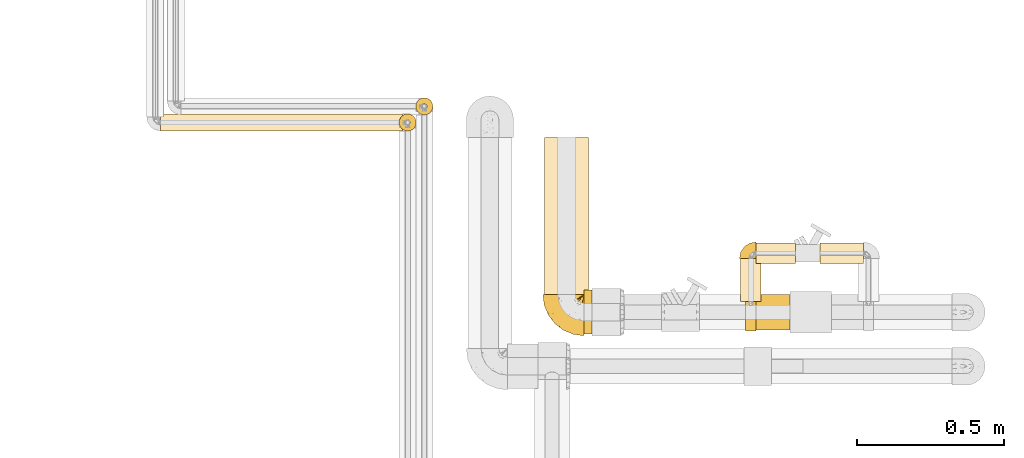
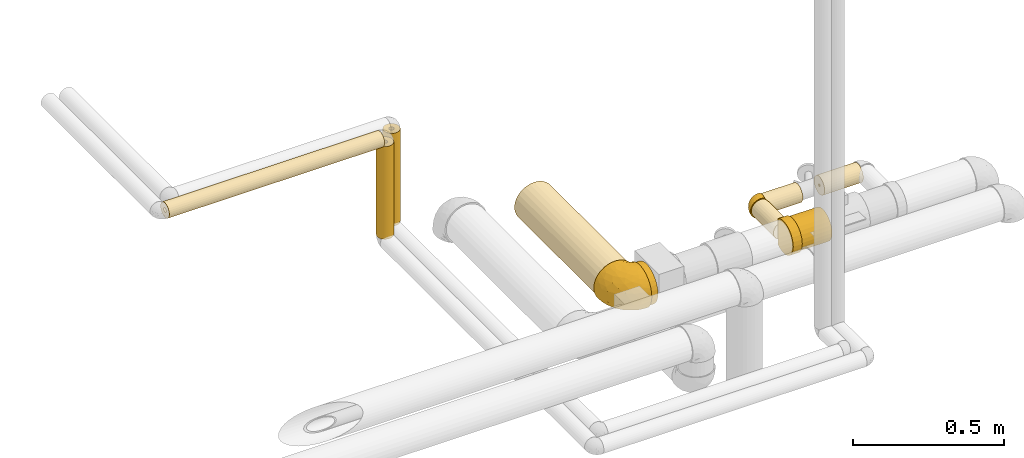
# One storey, part 8 of 83: 12 coverings.
"""IFC2X3 building model written with IfcOpenShell, lengths in millimetres."""

from ifc_helpers import new_model, entity, si_unit, converted_unit, derived_unit, direction, frame, origin_with_axes, origin_2d_with_axis, place, context, subcontext, project, spatial, hollow_circle, extrude, open_shell, surface_model, source, transform, mapped, element, save


model = new_model("IFC2X3")

# Units and contexts
model_context = context("Model", 3, precision=0.01, world=frame((0.0, 4.29681676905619e-09, 0.0)), true_north=direction((4.01073788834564e-13, 1.0)))
plan_context = context("Plan", 3, precision=0.01, world=frame((0.0, 4.29681676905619e-09, 0.0)), true_north=direction((4.01073788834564e-13, 1.0)))
body_context = subcontext(model_context, "Body", "Model", "MODEL_VIEW")
ifc_project = project(units=[converted_unit("PLANEANGLEUNIT", "DEGREE", entity("IfcPositiveLengthMeasure", 0.0174532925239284), si_unit("PLANEANGLEUNIT", "RADIAN"), dimensions=[0, 0, 0, 0, 0, 0, 0]), si_unit("AREAUNIT", "SQUARE_METRE"), si_unit("LENGTHUNIT", "METRE", prefix="MILLI"), si_unit("MASSUNIT", "GRAM", prefix="KILO"), si_unit("POWERUNIT", "WATT"), si_unit("PRESSUREUNIT", "PASCAL"), si_unit("FORCEUNIT", "NEWTON", prefix="KILO"), si_unit("ELECTRICVOLTAGEUNIT", "VOLT"), si_unit("ELECTRICCURRENTUNIT", "AMPERE"), si_unit("THERMODYNAMICTEMPERATUREUNIT", "DEGREE_CELSIUS"), si_unit("TIMEUNIT", "SECOND"), si_unit("VOLUMEUNIT", "CUBIC_METRE"), derived_unit("LINEARVELOCITYUNIT", [(si_unit("LENGTHUNIT", "METRE"), 1), (si_unit("TIMEUNIT", "SECOND"), -1)]), derived_unit("VOLUMETRICFLOWRATEUNIT", [(si_unit("VOLUMEUNIT", "CUBIC_METRE"), 1), (si_unit("TIMEUNIT", "SECOND"), -1)]), derived_unit("THERMALTRANSMITTANCEUNIT", [(si_unit("POWERUNIT", "WATT"), 1), (si_unit("THERMODYNAMICTEMPERATUREUNIT", "KELVIN"), -1), (si_unit("AREAUNIT", "SQUARE_METRE"), -1)]), derived_unit("SOUNDPRESSUREUNIT", [(si_unit("PRESSUREUNIT", "PASCAL"), 1)])], contexts=[model_context, plan_context])

# Site, building, storey
site_placement = place(None, frame((0.0, -4.29681676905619e-09, 0.0), z_axis=(0.0, 0.0, 1.0), x_axis=(1.0, 0.0, 0.0)))
site = spatial("IfcSite", under=ifc_project, at=site_placement, Name="ENGM", CompositionType="ELEMENT")
building_placement = place(site_placement, frame((0.0, 4.29681676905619e-09, 0.0), z_axis=(0.0, 0.0, 1.0), x_axis=(1.0, 0.0, 0.0)))
building = spatial("IfcBuilding", under=site, at=building_placement, Name="TI", CompositionType="ELEMENT")
storey_placement = place(building_placement, frame((0.0, 0.0, 204000.0), z_axis=(0.0, 0.0, 1.0), x_axis=(1.0, 0.0, 0.0)))
storey = spatial("IfcBuildingStorey", under=building, at=storey_placement, Name="Nivå D", CompositionType="ELEMENT", Elevation=204000.0)

# Coverings
shared_shape_1 = source(origin_with_axes(), body_context, "Body", "SurfaceModel", [
    surface_model("IfcShellBasedSurfaceModel", [(66.68615, 60.4, 44.5533), (44.55885, 60.4, 66.68245), (56.71233, 60.4, 56.70759), (74.09701, 60.4, 30.6867), (78.66008, 60.4, 15.64073), (-59.86937, 60.4, -53.36384), (-13.45191, 60.4, 79.06382), (0.0, 60.4, 80.2), (-26.52266, 60.4, 75.68744), (66.68245, 60.4, -44.55885), (80.2, 60.4, 0.0), (78.65881, 60.4, -15.6471), (74.09448, 60.4, -30.6928), (56.70759, 60.4, -56.71233), (44.5533, 60.4, -66.68615), (30.6867, 60.4, -74.09701), (-38.85297, 60.4, -70.16044), (-50.07051, 60.4, -62.6497), (-26.53389, 60.4, -75.6835), (0.0, 60.4, -80.2), (-13.46016, 60.4, -79.06241), (15.64073, 60.4, -78.66008), (-60.4, 47.38479, 64.70488), (-60.4, 59.86937, -53.36384), (-60.4, 47.38479, -64.70488), (-60.4, 16.77314, -78.42641), (-60.4, 16.77314, 78.42641), (-60.4, 32.80442, -73.18408), (-60.4, -20.75729, 77.46726), (-60.4, 0.0, 80.2), (-60.4, 59.86937, 53.36384), (-60.4, 32.80442, 73.18408), (-60.4, 0.0, -80.2), (-60.4, -20.75729, -77.46726), (-60.4, -40.1, -69.45524), (-60.4, -77.46726, -20.75729), (-60.4, -56.70997, -56.70997), (-60.4, -69.45524, -40.1), (-60.4, -40.1, 69.45524), (-60.4, -77.46726, 20.75729), (-60.4, -56.70997, 56.70997), (-60.4, -69.45524, 40.1), (-60.4, -80.2, 0.0), (-60.02478, 60.02478, 53.36384), (-60.02478, 60.02478, -53.36384), (-59.86937, 60.4, 53.36384), (-35.13493, 49.31431, -73.18165), (-30.44414, 36.38988, -77.12086), (-47.24837, 50.14287, -67.23448), (-51.76844, 1.71692, -80.2), (-49.59906, 26.61132, -76.22785), (-37.28592, 4.59768, -80.2), (-52.73185, 51.8369, -63.56342), (-42.45319, 40.2421, -72.90935), (-51.54432, 46.0645, -67.34579), (-56.12324, 44.39109, -67.16398), (-60.25988, 59.9274, -53.36384), (-36.88164, 25.89057, -78.00411), (-21.1535, 51.10695, -77.64859), (-45.04463, 56.76413, -66.64151), (-49.15929, 54.99138, -64.30522), (-59.9274, 60.25988, -53.36384), (-59.97609, 60.14233, -53.36384), (-20.84125, 41.65154, -78.45831), (-4.59768, 37.28592, -80.2), (-11.14421, 27.48834, -80.2), (-60.14233, 59.97609, -53.36384), (-2.29884, 48.84296, -80.2), (-17.69075, 17.69075, -80.2), (-27.48834, 11.14421, -80.2), (-48.22281, 2.42219, -80.2), (-38.04775, -11.91191, -78.72944), (75.40917, 24.01004, 0.0), (72.25534, 25.59122, -23.28207), (10.61001, 22.76207, -77.67441), (21.22289, 41.97871, -76.74814), (31.34576, 25.38063, -70.73221), (-3.74675, -31.18103, -64.77575), (-5.13665, -50.63443, -48.82266), (-32.87645, -45.29789, -63.62694), (-27.38508, -24.49772, -74.09514), (-4.74736, -5.39378, -75.94549), (46.21326, 31.25344, -62.60562), (36.40138, 43.87324, -70.73221), (-44.8504, -25.95034, -75.39633), (39.01921, -39.01921, 0.0), (49.22532, -23.71846, -19.55404), (61.36317, -9.9, 0.0), (-21.92667, -8.25016, -78.08521), (-22.38404, -68.61058, -30.69121), (-34.25952, -60.8409, -48.82266), (-34.15394, -76.26325, -15.12592), (22.35578, -47.44944, -26.93623), (25.62001, -10.18883, -61.99781), (44.02353, 6.8413, -56.46123), (37.09986, -19.13964, -46.3807), (18.79123, 5.85638, -71.78749), (57.98575, 29.33557, -50.88062), (9.9, -61.36317, 0.0), (66.5747, 27.65458, -37.80789), (57.74343, 3.50566, -37.8079), (18.9328, -40.15021, -43.03133), (9.31059, -35.56603, -55.16599), (-7.14053, -68.17975, -15.05794), (0.87984, -60.45932, -28.12389), (62.71669, -0.27663, -22.91513), (-24.01004, -75.40917, 0.0), (4.02735, 8.3767, -77.00574), (9.44148, -11.27075, -69.70024), (47.17014, -18.05894, -33.77057), (58.25151, 27.96235, 50.12561), (62.11094, 13.63756, 37.80204), (68.86186, 38.33131, 37.80204), (-21.55327, -72.8771, 16.7886), (-8.93094, -63.85731, 30.69121), (-37.04517, -72.05186, 30.69121), (48.04336, -22.81151, 24.73654), (28.08242, 17.78952, 70.72908), (20.54188, 39.16084, 76.74624), (8.43896, 21.5252, 77.99965), (43.58186, 7.06783, 56.95761), (22.34051, -7.09908, 65.42836), (34.21801, -17.24442, 50.87545), (-28.29947, -59.40083, 48.82266), (5.41219, -45.68707, 47.74068), (-11.73307, -37.38098, 63.62694), (2.27362, -63.23248, 17.75104), (23.80702, -49.34072, 18.96603), (49.08404, -10.51145, 39.06557), (-38.19227, -11.44439, 78.82289), (-34.65245, -26.97661, 74.09514), (-48.22281, 2.42219, 80.2), (27.59731, -37.89169, 36.27535), (-37.37974, -46.36918, 63.62694), (63.90334, 2.03316, 22.68626), (73.38333, 30.20673, 23.2758), (47.23671, 32.15612, 61.99357), (30.6928, 60.4, 74.09448), (15.6471, 60.4, 78.65881), (34.6965, 35.87563, 70.72909), (-12.06912, -23.90977, 71.26885), (-7.75233, -9.0194, 75.6161), (-23.22723, -15.01108, 76.62586), (-37.28592, 4.59768, 80.2), (-27.48834, 11.14421, 80.2), (-2.29884, 48.84296, 80.2), (-4.59768, 37.28592, 80.2), (13.04574, 5.0174, 73.71794), (6.541, -23.53082, 65.01615), (-2.98218, 9.37603, 78.50255), (-11.14421, 27.48834, 80.2), (-17.69075, 17.69075, 80.2), (-51.76844, 1.71692, 80.2), (-52.73034, 51.83578, 63.56483), (-47.24048, 50.13672, 67.24098), (-45.0362, 56.76319, 66.64715), (-49.15393, 54.98866, 64.3097), (-35.12322, 49.31397, 73.18652), (-60.25988, 59.9274, 53.36384), (-56.12324, 44.39109, 67.16398), (-51.54437, 46.06455, 67.34575), (-60.14233, 59.97609, 53.36384), (-49.59906, 26.61132, 76.22785), (-36.88467, 25.90213, 78.00143), (-59.97609, 60.14233, 53.36384), (-30.4326, 36.38986, 77.12344), (-21.14326, 51.1076, 77.65114), (-38.84256, 60.4, 70.1662), (-59.9274, 60.25988, 53.36384), (-50.06396, 60.4, 62.65492), (-20.83441, 41.65564, 78.45925), (-42.44607, 40.23511, 72.91391)], [open_shell([[[0, 1, 2]], [[0, 3, 4]], [[1, 0, 5]], [[6, 7, 8]], [[8, 7, 5]], [[9, 10, 11]], [[9, 11, 12]], [[9, 13, 14]], [[9, 14, 5]], [[10, 9, 5]], [[15, 5, 14]], [[5, 16, 17]], [[16, 5, 18]], [[19, 20, 5]], [[18, 5, 20]], [[15, 19, 5]], [[15, 21, 19]], [[10, 5, 0]], [[22, 23, 24]], [[24, 25, 26]], [[25, 24, 27]], [[25, 28, 29]], [[30, 23, 22]], [[22, 26, 31]], [[24, 26, 22]], [[25, 29, 26]], [[25, 32, 28]], [[33, 34, 35]], [[36, 37, 35]], [[36, 35, 34]], [[33, 35, 38]], [[38, 39, 40]], [[38, 28, 33]], [[40, 39, 41]], [[38, 35, 39]], [[42, 39, 35]], [[33, 28, 32]], [[23, 30, 43]], [[44, 23, 43]], [[45, 5, 43]], [[44, 43, 5]], [[46, 47, 48]], [[49, 32, 25]], [[49, 50, 51]], [[44, 48, 52]], [[50, 49, 25]], [[52, 53, 54]], [[25, 27, 50]], [[55, 24, 56]], [[54, 53, 57]], [[20, 58, 18]], [[24, 23, 56]], [[59, 60, 61]], [[59, 17, 16]], [[53, 48, 47]], [[5, 17, 61]], [[62, 60, 48]], [[61, 17, 59]], [[16, 18, 59]], [[46, 60, 59]], [[50, 57, 51]], [[63, 58, 64]], [[55, 27, 24]], [[46, 59, 58]], [[47, 63, 65]], [[52, 54, 66]], [[58, 59, 18]], [[20, 67, 58]], [[62, 48, 44]], [[54, 50, 55]], [[63, 46, 58]], [[47, 68, 57]], [[57, 68, 69]], [[54, 57, 50]], [[48, 60, 46]], [[61, 60, 62]], [[65, 68, 47]], [[47, 46, 63]], [[63, 64, 65]], [[27, 55, 50]], [[67, 20, 19]], [[67, 64, 58]], [[54, 56, 66]], [[48, 53, 52]], [[57, 53, 47]], [[56, 54, 55]], [[44, 52, 66]], [[51, 57, 69]], [[70, 71, 33]], [[70, 51, 71]], [[11, 72, 73]], [[74, 75, 76]], [[77, 78, 79]], [[77, 80, 81]], [[82, 76, 83]], [[71, 84, 33]], [[85, 86, 87]], [[15, 75, 21]], [[88, 81, 80]], [[12, 11, 73]], [[89, 37, 90]], [[35, 91, 42]], [[86, 85, 92]], [[37, 89, 35]], [[37, 36, 90]], [[34, 79, 36]], [[84, 79, 34]], [[93, 94, 95]], [[19, 21, 67]], [[76, 94, 96]], [[13, 9, 97]], [[82, 13, 97]], [[85, 98, 92]], [[99, 73, 100]], [[83, 75, 15]], [[21, 75, 67]], [[101, 78, 102]], [[103, 91, 89]], [[92, 98, 103]], [[104, 78, 101]], [[87, 86, 105]], [[103, 98, 106]], [[82, 94, 76]], [[105, 72, 87]], [[12, 99, 9]], [[107, 108, 81]], [[11, 10, 72]], [[97, 99, 100]], [[93, 96, 94]], [[74, 64, 75]], [[77, 79, 80]], [[14, 83, 15]], [[90, 79, 78]], [[107, 65, 74]], [[92, 101, 109]], [[73, 105, 100]], [[80, 71, 88]], [[102, 95, 101]], [[74, 96, 107]], [[96, 74, 76]], [[14, 13, 82]], [[75, 83, 76]], [[82, 83, 14]], [[82, 97, 94]], [[97, 100, 94]], [[95, 94, 100]], [[109, 95, 100]], [[95, 109, 101]], [[79, 90, 36]], [[89, 90, 78]], [[33, 32, 70]], [[69, 88, 51]], [[71, 80, 84]], [[81, 69, 68]], [[51, 88, 71]], [[69, 81, 88]], [[79, 84, 80]], [[34, 33, 84]], [[108, 96, 93]], [[96, 108, 107]], [[91, 103, 106]], [[104, 103, 89]], [[42, 91, 106]], [[89, 91, 35]], [[102, 108, 93]], [[77, 81, 108]], [[81, 68, 107]], [[105, 73, 72]], [[78, 104, 89]], [[92, 103, 104]], [[9, 99, 97]], [[12, 73, 99]], [[75, 64, 67]], [[65, 107, 68]], [[65, 64, 74]], [[109, 105, 86]], [[105, 109, 100]], [[92, 109, 86]], [[104, 101, 92]], [[102, 78, 77]], [[108, 102, 77]], [[95, 102, 93]], [[110, 111, 112]], [[42, 106, 113]], [[113, 114, 115]], [[87, 116, 85]], [[117, 118, 119]], [[120, 121, 122]], [[123, 124, 125]], [[126, 127, 114]], [[122, 128, 120]], [[98, 85, 127]], [[129, 28, 130]], [[28, 129, 131]], [[132, 127, 116]], [[133, 130, 38]], [[38, 40, 133]], [[115, 41, 39]], [[120, 128, 111]], [[41, 115, 123]], [[38, 130, 28]], [[85, 116, 127]], [[111, 134, 135]], [[133, 123, 125]], [[110, 2, 136]], [[128, 116, 134]], [[4, 3, 135]], [[2, 1, 136]], [[118, 137, 138]], [[135, 3, 112]], [[10, 4, 72]], [[137, 139, 1]], [[140, 141, 142]], [[41, 123, 40]], [[129, 142, 143]], [[118, 117, 139]], [[141, 144, 142]], [[120, 111, 110]], [[138, 145, 118]], [[134, 72, 135]], [[119, 118, 146]], [[139, 117, 136]], [[72, 4, 135]], [[128, 134, 111]], [[121, 117, 147]], [[0, 112, 3]], [[124, 123, 114]], [[122, 148, 124]], [[132, 122, 124]], [[126, 114, 113]], [[132, 114, 127]], [[148, 122, 121]], [[0, 2, 110]], [[135, 112, 111]], [[110, 112, 0]], [[110, 136, 120]], [[136, 117, 120]], [[121, 120, 117]], [[147, 117, 119]], [[141, 140, 148]], [[149, 150, 151]], [[119, 149, 147]], [[123, 133, 40]], [[130, 133, 125]], [[131, 129, 143]], [[131, 29, 28]], [[142, 129, 130]], [[140, 130, 125]], [[144, 149, 151]], [[130, 140, 142]], [[148, 140, 125]], [[124, 148, 125]], [[148, 121, 147]], [[116, 87, 134]], [[72, 134, 87]], [[132, 116, 128]], [[114, 132, 124]], [[39, 42, 113]], [[123, 115, 114]], [[39, 113, 115]], [[126, 106, 98]], [[106, 126, 113]], [[98, 127, 126]], [[150, 149, 119]], [[148, 147, 141]], [[141, 147, 149]], [[1, 139, 136]], [[137, 118, 139]], [[145, 138, 7]], [[145, 146, 118]], [[132, 128, 122]], [[119, 146, 150]], [[141, 149, 144]], [[144, 143, 142]], [[26, 29, 152]], [[153, 154, 43]], [[155, 156, 157]], [[22, 158, 30]], [[159, 160, 158]], [[43, 161, 153]], [[160, 162, 163]], [[154, 164, 43]], [[165, 157, 154]], [[26, 162, 31]], [[163, 143, 144]], [[26, 152, 162]], [[166, 145, 6]], [[159, 31, 162]], [[166, 8, 167]], [[7, 6, 145]], [[168, 164, 156]], [[166, 167, 155]], [[6, 8, 166]], [[157, 166, 155]], [[169, 155, 167]], [[170, 166, 157]], [[143, 162, 152]], [[154, 157, 156]], [[170, 146, 166]], [[169, 45, 168]], [[169, 168, 155]], [[22, 159, 158]], [[165, 163, 151]], [[154, 153, 171]], [[165, 150, 170]], [[163, 165, 171]], [[143, 163, 162]], [[168, 156, 155]], [[154, 156, 164]], [[157, 165, 170]], [[31, 159, 22]], [[150, 165, 151]], [[150, 146, 170]], [[160, 159, 162]], [[166, 146, 145]], [[161, 158, 160]], [[171, 153, 160]], [[163, 171, 160]], [[154, 171, 165]], [[153, 161, 160]], [[144, 151, 163]], [[1, 138, 137]], [[1, 5, 7]], [[7, 138, 1]], [[167, 8, 169]], [[5, 169, 8]], [[169, 5, 45]], [[10, 0, 4]]])]),
])
covering_1_placement = place(storey_placement, frame((608617.36825, 698092.0, 5915.24411), z_axis=(0.0, 0.0, 1.0), x_axis=(0.0, -1.0, 0.0)))
element("IfcCovering", 1, at=covering_1_placement, inside=storey, Name="BI11T - Rørskål m/Al.folie - varme 60-25", PredefinedType="INSULATION", context=body_context, shape_type="MappedRepresentation", body=[
    mapped(shared_shape_1, transform((0.0, 0.0, 0.0), scale=1.0)),
])
shared_shape_2 = source(origin_with_axes(), body_context, "Body", "SweptSolid", [
    extrude(hollow_circle(Radius=75.0, WallThickness=50.0, at=origin_2d_with_axis()), frame((0.0, 0.0, 0.0), z_axis=(1.0, 0.0, 0.0), x_axis=(0.0, 1.0, 0.0)), (0.0, 0.0, 1.0), 26.6),
])
covering_2_placement = place(storey_placement, frame((608704.37351, 698092.0, 5915.24411), z_axis=(0.0, 0.0, 1.0), x_axis=(-1.0, 0.0, 0.0)))
element("IfcCovering", 2, at=covering_2_placement, inside=storey, Name="BI11T - Rørskål m/Al.folie - varme 60-25", PredefinedType="INSULATION", context=body_context, shape_type="MappedRepresentation", body=[
    mapped(shared_shape_2, transform((0.0, 0.0, 0.0), scale=1.0)),
])
shared_shape_3 = source(origin_with_axes(), body_context, "Body", "SweptSolid", [
    extrude(hollow_circle(Radius=75.0, WallThickness=50.0, at=origin_2d_with_axis()), frame((0.0, 0.0, 0.0), z_axis=(1.0, 0.0, 0.0), x_axis=(0.0, 1.0, 0.0)), (0.0, 0.0, 1.0), 533.4),
])
covering_3_placement = place(storey_placement, frame((608617.36825, 698685.81699, 5915.24411), z_axis=(0.0, 0.0, 1.0), x_axis=(0.0, -1.0, 0.0)))
element("IfcCovering", 3, at=covering_3_placement, inside=storey, Name="BI11T - Rørskål m/Al.folie - varme 60-25", PredefinedType="INSULATION", context=body_context, shape_type="MappedRepresentation", body=[
    mapped(shared_shape_3, transform((0.0, 0.0, 0.0), scale=1.0)),
])
shared_shape_4 = source(origin_with_axes(), body_context, "Body", "SurfaceModel", [
    surface_model("IfcShellBasedSurfaceModel", [(17.2, -36.3, -52.95234), (17.2, -36.3, -45.45459), (-17.2, -36.3, -45.45459), (-17.2, -36.3, -52.95234), (-17.2, -36.3, 45.45459), (17.2, -36.3, 45.45459), (17.2, -36.3, 52.95234), (-17.2, -36.3, 52.95234), (17.2, 16.61618, -62.01244), (17.2, 32.1, -55.59883), (17.2, 45.39626, -45.39626), (17.2, 55.59883, -32.1), (17.2, 62.01244, -16.61618), (17.2, -12.7978, -62.91149), (17.2, 0.0, -64.2), (17.2, -25.04423, -59.11367), (17.2, 64.2, 0.0), (17.2, 62.01244, 16.61618), (17.2, 55.59883, 32.1), (17.2, 45.39626, 45.39626), (17.2, 32.1, 55.59883), (17.2, -25.04423, 59.11367), (17.2, -12.7978, 62.91149), (17.2, 0.0, 64.2), (17.2, 16.61618, 62.01244), (-17.2, 64.2, 0.0), (-17.2, 62.01244, 16.61618), (-17.2, 55.59883, 32.1), (-17.2, 45.39626, 45.39626), (-17.2, 16.61618, 62.01244), (-17.2, 0.0, 64.2), (-17.2, 32.1, 55.59883), (-17.2, -12.7978, 62.91149), (-17.2, -25.04423, 59.11367), (-17.2, -25.04423, -59.11367), (-17.2, -12.7978, -62.91149), (-17.2, 0.0, -64.2), (-17.2, 16.61618, -62.01244), (-17.2, 32.1, -55.59883), (-17.2, 45.39626, -45.39626), (-17.2, 55.59883, -32.1), (-17.2, 62.01244, -16.61618)], [open_shell([[[0, 1, 2]], [[2, 3, 0]], [[1, 4, 2]], [[5, 6, 4]], [[7, 4, 6]], [[5, 4, 1]], [[1, 8, 9]], [[1, 10, 11]], [[9, 10, 1]], [[1, 11, 12]], [[13, 14, 1]], [[15, 1, 0]], [[1, 15, 13]], [[14, 8, 1]], [[12, 16, 1]], [[5, 16, 17]], [[5, 18, 19]], [[17, 18, 5]], [[19, 20, 5]], [[5, 21, 6]], [[21, 5, 22]], [[23, 22, 5]], [[23, 5, 24]], [[5, 20, 24]], [[16, 5, 1]], [[17, 25, 26]], [[18, 26, 27]], [[16, 25, 17]], [[18, 17, 26]], [[19, 18, 27]], [[27, 28, 19]], [[29, 30, 24]], [[20, 31, 24]], [[31, 20, 28]], [[24, 31, 29]], [[30, 23, 24]], [[28, 20, 19]], [[30, 32, 22]], [[22, 23, 30]], [[32, 21, 22]], [[33, 7, 6]], [[6, 21, 33]], [[33, 21, 32]], [[3, 34, 15]], [[15, 0, 3]], [[34, 13, 15]], [[35, 36, 14]], [[14, 13, 35]], [[35, 13, 34]], [[8, 36, 37]], [[9, 37, 38]], [[14, 36, 8]], [[9, 8, 37]], [[10, 9, 38]], [[38, 39, 10]], [[11, 39, 40]], [[12, 40, 41]], [[11, 40, 12]], [[16, 12, 41]], [[25, 16, 41]], [[39, 11, 10]], [[4, 29, 31]], [[4, 28, 27]], [[31, 28, 4]], [[4, 27, 26]], [[32, 30, 4]], [[33, 4, 7]], [[4, 33, 32]], [[30, 29, 4]], [[26, 25, 4]], [[2, 25, 41]], [[2, 40, 39]], [[41, 40, 2]], [[39, 38, 2]], [[2, 34, 3]], [[34, 2, 35]], [[36, 35, 2]], [[36, 2, 37]], [[2, 38, 37]], [[25, 2, 4]]])]),
])
covering_4_placement = place(storey_placement, frame((609244.07456, 698092.0, 5915.24411), z_axis=(0.0, 0.0, -1.0), x_axis=(1.0, 0.0, 0.0)))
element("IfcCovering", 4, at=covering_4_placement, inside=storey, Name="BI11T - Rørskål m/Al.folie - varme 60-25", PredefinedType="INSULATION", context=body_context, shape_type="MappedRepresentation", body=[
    mapped(shared_shape_4, transform((0.0, 0.0, 0.0), scale=1.0)),
])
shared_shape_5 = source(origin_with_axes(), body_context, "Body", "SweptSolid", [
    extrude(hollow_circle(Radius=35.0, WallThickness=30.0, at=origin_2d_with_axis()), frame((0.0, 0.0, 0.0), z_axis=(1.0, 0.0, 0.0), x_axis=(0.0, 1.0, 0.0)), (0.0, 0.0, 1.0), 146.5),
])
covering_5_placement = place(storey_placement, frame((609244.07456, 698128.3, 5915.20000000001), z_axis=(0.0, 0.0, 1.0), x_axis=(0.0, 1.0, 0.0)))
element("IfcCovering", 5, at=covering_5_placement, inside=storey, Name="BI11T - Rørskål m/Al.folie - varme 60-25", PredefinedType="INSULATION", context=body_context, shape_type="MappedRepresentation", body=[
    mapped(shared_shape_5, transform((0.0, 0.0, 0.0), scale=1.0, scale2=1.0, scale3=1.0, uniform=False)),
])
shared_shape_6 = source(origin_with_axes(), body_context, "Body", "SweptSolid", [
    extrude(hollow_circle(Radius=35.0, WallThickness=30.0, at=origin_2d_with_axis()), frame((0.0, 0.0, 0.0), z_axis=(1.0, 0.0, 0.0), x_axis=(0.0, 1.0, 0.0)), (0.0, 0.0, 1.0), 134.6),
])
covering_6_placement = place(storey_placement, frame((609395.82456, 698292.0, 5915.20000000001), z_axis=(0.0, 0.0, 1.0), x_axis=(-1.0, 0.0, 0.0)))
element("IfcCovering", 6, at=covering_6_placement, inside=storey, Name="BI11T - Rørskål m/Al.folie - varme 60-25", PredefinedType="INSULATION", context=body_context, shape_type="MappedRepresentation", body=[
    mapped(shared_shape_6, transform((0.0, 0.0, 0.0), scale=1.0)),
])
shared_shape_7 = source(origin_with_axes(), body_context, "Body", "SurfaceModel", [
    surface_model("IfcShellBasedSurfaceModel", [(16.754, 17.2, 34.77446), (24.07259, 17.2, 30.174), (30.18318, 17.2, 24.06109), (34.78009, 17.2, 16.74233), (37.63334, 17.2, 8.5844), (-16.85358, 17.2, 34.72631), (0.0, 17.2, 38.6), (8.5936, 17.2, 37.63124), (-8.6403, 17.2, 37.62054), (37.63124, 17.2, -8.5936), (-16.85358, 17.2, -34.72631), (34.77446, 17.2, -16.754), (30.174, 17.2, -24.07259), (24.06109, 17.2, -30.18318), (16.74233, 17.2, -34.78009), (8.5844, 17.2, -37.63334), (0.0, 17.2, -38.6), (-8.65272, 17.2, -37.61769), (38.6, 17.2, 0.0), (-17.2, 16.85358, -34.72631), (-17.2, 8.64651, -37.61912), (-17.2, 0.0, -38.6), (-17.2, -9.99041, -37.28474), (-17.2, 16.85358, 34.72631), (-17.2, 8.64651, 37.61912), (-17.2, 0.0, 38.6), (-17.2, -19.3, 33.42858), (-17.2, -9.99041, 37.28474), (-17.2, -19.3, -33.42858), (-17.2, -27.29432, -27.29432), (-17.2, -33.42858, -19.3), (-17.2, -37.28474, -9.99041), (-17.2, -27.29432, 27.29432), (-17.2, -33.42858, 19.3), (-17.2, -37.28474, 9.99041), (-17.2, -38.6, 0.0), (-16.95505, 16.95505, 34.72631), (-16.95505, 16.95505, -34.72631), (-10.093, 7.99163, -38.1963), (-12.83075, 12.82906, -36.99358), (-17.2, 13.26686, -35.99055), (-3.77872, 17.2, -38.17102), (-5.03776, 5.03776, -38.6), (34.73552, 3.81722, -12.75404), (36.08141, 4.5382, 0.0), (-10.15633, -13.98603, -35.66175), (-6.6121, -22.09681, -30.62344), (1.28371, -26.90707, -23.49819), (-8.78753, -29.87772, -23.49819), (-9.56329, -6.41448, -37.84068), (5.71724, -30.15925, -15.35902), (9.16812, -30.83912, -8.72948), (-0.24706, -35.22244, -7.34103), (-3.44766, -33.84153, -14.77158), (11.79647, 9.72898, -36.43575), (18.34549, -18.15558, -20.13103), (22.06593, -9.74812, -23.75626), (25.8635, -11.28695, -17.44492), (-1.49358, 13.59417, -38.6), (28.37333, -12.42598, -10.45733), (-13.59417, 1.49358, -38.6), (24.10133, -1.97352, -26.2125), (28.48803, -2.81482, -20.54249), (19.84317, 10.0296, -32.68712), (25.88206, 6.09965, -27.29953), (17.36006, 2.06021, -32.68712), (6.87024, 2.35963, -36.97635), (7.24113, -8.00945, -34.19215), (-0.50614, -3.14153, -37.50843), (4.05164, -18.37681, -30.03902), (14.51559, -13.9994, -27.29953), (31.77079, 7.72102, -20.54249), (34.35248, -4.15374, 0.0), (21.93929, -19.89657, -11.88037), (-8.07832, 3.77832, -38.6), (-5.15248, -4.77878, -37.79042), (-11.11888, 2.51888, -38.6), (-2.98717, 9.98834, -38.6), (22.25656, -22.25656, 0.0), (28.30452, -13.20515, 0.0), (14.33857, -25.65925, -13.89396), (17.82595, -25.47925, -6.71326), (10.01917, -21.63528, -24.00943), (-4.5382, -36.08141, 0.0), (12.0867, -2.89595, -33.9764), (17.76728, -5.8335, -29.68601), (-2.43717, -11.15914, -35.66175), (4.15374, -34.35248, 0.0), (13.20515, -28.30452, 0.0), (1.28094, -26.90823, 23.49819), (4.05381, -18.37465, 30.03962), (-6.61293, -22.09703, 30.62344), (-0.24706, -35.22242, 7.34113), (-8.78917, -29.87801, 23.49819), (-3.44875, -33.84182, 14.77158), (34.73945, 3.81766, 12.74347), (5.72019, -30.154, 15.36694), (-10.15633, -13.98603, 35.66175), (28.38486, -12.4115, 10.45101), (28.49485, -2.81763, 20.53077), (6.87222, 2.34883, 36.97415), (11.80651, 9.72559, 36.43205), (-2.98717, 9.98834, 38.6), (14.34627, -25.6546, 13.89184), (17.82619, -25.47954, 6.71117), (21.9496, -19.88818, 11.87507), (17.76807, -5.84067, 29.68218), (12.10402, -2.89534, 33.96888), (7.25198, -7.9893, 34.19577), (-0.50603, -3.14166, 37.50839), (-5.64892, -3.70957, 38.01619), (-2.43717, -11.15914, 35.66175), (22.0726, -9.74492, 23.75154), (14.52301, -14.0067, 27.28912), (18.35733, -18.15128, 20.12225), (31.77798, 7.7194, 20.53077), (25.89214, 6.09706, 27.28912), (19.8547, 10.02754, 32.67975), (17.37074, 2.05539, 32.67975), (24.11537, -1.97253, 26.19919), (-9.56329, -6.41448, 37.84068), (-13.59417, 1.49358, 38.6), (10.02667, -21.64445, 23.99455), (-1.49358, 13.59417, 38.6), (9.16839, -30.83837, 8.73175), (-5.03776, 5.03776, 38.6), (-8.07832, 3.77832, 38.6), (-11.11888, 2.51888, 38.6), (25.29953, -12.16739, 17.39357), (-13.82008, 12.82072, 36.79423), (-9.45042, 9.44743, 38.09256), (-17.2, 3.77877, 38.17133), (-13.26677, 17.2, 35.99025)], [open_shell([[[0, 1, 2]], [[3, 4, 2]], [[5, 2, 4]], [[6, 7, 0]], [[8, 0, 5]], [[0, 8, 6]], [[5, 0, 2]], [[4, 9, 5]], [[5, 9, 10]], [[11, 12, 13]], [[14, 9, 11]], [[14, 11, 13]], [[10, 14, 15]], [[14, 10, 9]], [[10, 16, 17]], [[16, 10, 15]], [[9, 4, 18]], [[19, 20, 21]], [[21, 22, 19]], [[19, 22, 23]], [[24, 23, 25]], [[26, 27, 25]], [[26, 25, 23]], [[23, 22, 26]], [[28, 29, 30]], [[30, 31, 28]], [[28, 31, 26]], [[32, 26, 33]], [[26, 34, 33]], [[26, 31, 34]], [[31, 35, 34]], [[28, 26, 22]], [[19, 23, 36]], [[37, 19, 36]], [[5, 10, 36]], [[37, 36, 10]], [[38, 39, 17]], [[37, 39, 40]], [[21, 20, 38]], [[37, 10, 39]], [[10, 17, 39]], [[41, 38, 17]], [[20, 40, 39]], [[41, 42, 38]], [[39, 38, 20]], [[19, 37, 40]], [[21, 38, 42]], [[41, 16, 42]], [[43, 9, 44]], [[28, 22, 45]], [[43, 11, 9]], [[46, 47, 48]], [[22, 49, 45]], [[50, 51, 52]], [[52, 31, 53]], [[14, 54, 15]], [[48, 30, 29]], [[29, 28, 46]], [[55, 56, 57]], [[30, 48, 53]], [[15, 58, 16]], [[43, 59, 57]], [[22, 21, 60]], [[61, 62, 56]], [[63, 64, 65]], [[66, 67, 68]], [[14, 63, 54]], [[63, 14, 13]], [[69, 67, 70]], [[64, 13, 12]], [[71, 64, 12]], [[59, 43, 72]], [[61, 64, 62]], [[55, 57, 73]], [[12, 11, 71]], [[47, 46, 69]], [[72, 43, 44]], [[62, 71, 43]], [[30, 53, 31]], [[74, 75, 76]], [[66, 77, 54]], [[54, 58, 15]], [[78, 59, 79]], [[66, 54, 65]], [[80, 81, 51]], [[45, 46, 28]], [[69, 70, 82]], [[50, 80, 51]], [[31, 52, 83]], [[55, 82, 70]], [[76, 75, 49]], [[67, 84, 85]], [[42, 77, 66]], [[9, 18, 44]], [[43, 71, 11]], [[64, 71, 62]], [[64, 63, 13]], [[54, 63, 65]], [[60, 49, 22]], [[46, 45, 86]], [[46, 86, 69]], [[67, 69, 86]], [[86, 49, 75]], [[85, 84, 65]], [[60, 76, 49]], [[42, 68, 74]], [[86, 45, 49]], [[68, 86, 75]], [[66, 68, 42]], [[86, 68, 67]], [[83, 52, 87]], [[83, 35, 31]], [[81, 78, 88]], [[88, 87, 51]], [[52, 51, 87]], [[73, 81, 80]], [[88, 51, 81]], [[50, 52, 53]], [[53, 47, 50]], [[82, 50, 47]], [[55, 73, 80]], [[73, 59, 78]], [[80, 50, 82]], [[56, 55, 70]], [[80, 82, 55]], [[69, 82, 47]], [[85, 56, 70]], [[57, 56, 62]], [[67, 85, 70]], [[61, 65, 64]], [[67, 66, 84]], [[66, 65, 84]], [[43, 57, 62]], [[57, 59, 73]], [[56, 85, 61]], [[65, 61, 85]], [[46, 48, 29]], [[53, 48, 47]], [[54, 77, 58]], [[59, 72, 79]], [[78, 81, 73]], [[74, 68, 75]], [[89, 90, 91]], [[87, 92, 83]], [[93, 94, 89]], [[3, 95, 4]], [[33, 34, 94]], [[92, 96, 94]], [[27, 26, 97]], [[98, 95, 99]], [[100, 101, 102]], [[101, 0, 7]], [[103, 104, 105]], [[26, 32, 91]], [[106, 107, 108]], [[109, 110, 111]], [[32, 33, 93]], [[112, 113, 114]], [[99, 115, 116]], [[1, 116, 2]], [[32, 93, 91]], [[95, 3, 115]], [[95, 44, 4]], [[1, 0, 117]], [[118, 106, 119]], [[118, 101, 100]], [[101, 118, 117]], [[98, 72, 95]], [[106, 113, 112]], [[27, 120, 121]], [[114, 122, 103]], [[90, 108, 111]], [[27, 121, 25]], [[117, 116, 1]], [[78, 98, 105]], [[3, 2, 115]], [[7, 123, 101]], [[116, 115, 2]], [[98, 78, 79]], [[34, 83, 92]], [[92, 124, 96]], [[87, 88, 124]], [[103, 105, 114]], [[89, 122, 90]], [[97, 91, 111]], [[102, 125, 100]], [[109, 126, 110]], [[44, 95, 72]], [[44, 18, 4]], [[95, 115, 99]], [[101, 117, 0]], [[116, 117, 118]], [[91, 97, 26]], [[120, 27, 97]], [[108, 90, 113]], [[111, 91, 90]], [[108, 113, 106]], [[109, 100, 125]], [[121, 120, 127]], [[97, 111, 120]], [[109, 111, 108]], [[126, 109, 125]], [[120, 110, 127]], [[100, 109, 108]], [[34, 35, 83]], [[104, 124, 88]], [[34, 92, 94]], [[105, 104, 78]], [[78, 104, 88]], [[124, 104, 103]], [[124, 103, 96]], [[124, 92, 87]], [[122, 96, 103]], [[89, 94, 96]], [[127, 110, 126]], [[112, 128, 99]], [[105, 98, 128]], [[122, 114, 113]], [[128, 112, 114]], [[99, 116, 119]], [[119, 112, 99]], [[106, 118, 107]], [[118, 100, 107]], [[100, 108, 107]], [[90, 122, 113]], [[122, 89, 96]], [[105, 128, 114]], [[99, 128, 98]], [[118, 119, 116]], [[106, 112, 119]], [[94, 93, 33]], [[91, 93, 89]], [[123, 7, 6]], [[123, 102, 101]], [[79, 72, 98]], [[111, 110, 120]], [[129, 130, 8]], [[125, 130, 131]], [[23, 24, 129]], [[125, 6, 130]], [[6, 8, 130]], [[132, 129, 8]], [[24, 131, 130]], [[132, 36, 129]], [[130, 129, 24]], [[25, 125, 131]], [[23, 129, 36]], [[132, 5, 36]]])]),
])
covering_7_placement = place(storey_placement, frame((609244.07456, 698292.0, 5915.20000000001), z_axis=(0.0, 0.0, 1.0), x_axis=(-1.0, 0.0, 0.0)))
element("IfcCovering", 7, at=covering_7_placement, inside=storey, Name="BI11T - Rørskål m/Al.folie - varme 60-25", PredefinedType="INSULATION", context=body_context, shape_type="MappedRepresentation", body=[
    mapped(shared_shape_7, transform((0.0, 0.0, 0.0), scale=1.0)),
])
shared_shape_8 = source(origin_with_axes(), body_context, "Body", "SweptSolid", [
    extrude(hollow_circle(Radius=60.0, WallThickness=40.0, at=origin_2d_with_axis()), frame((0.0, 0.0, 0.0), z_axis=(1.0, 0.0, 0.0), x_axis=(0.0, 1.0, 0.0)), (0.0, 0.0, 1.0), 116.5),
])
covering_8_placement = place(storey_placement, frame((609377.73353, 698092.0, 5915.24411), z_axis=(0.0, 0.0, 1.0), x_axis=(-1.0, 0.0, 0.0)))
element("IfcCovering", 8, at=covering_8_placement, inside=storey, Name="BI11T - Rørskål m/Al.folie - varme 60-25", PredefinedType="INSULATION", context=body_context, shape_type="MappedRepresentation", body=[
    mapped(shared_shape_8, transform((0.0, 0.0, 0.0), scale=1.0)),
])
shared_shape_9 = source(origin_with_axes(), body_context, "Body", "SweptSolid", [
    extrude(hollow_circle(Radius=35.0, WallThickness=30.0, at=origin_2d_with_axis()), frame((0.0, 0.0, 0.0), z_axis=(1.0, 0.0, 0.0), x_axis=(0.0, 1.0, 0.0)), (0.0, 0.0, 1.0), 148.0),
])
covering_9_placement = place(storey_placement, frame((609626.87456, 698292.0, 5915.20000000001), z_axis=(0.0, 0.0, 1.0), x_axis=(-1.0, 0.0, 0.0)))
element("IfcCovering", 9, at=covering_9_placement, inside=storey, Name="BI11T - Rørskål m/Al.folie - varme 60-25", PredefinedType="INSULATION", context=body_context, shape_type="MappedRepresentation", body=[
    mapped(shared_shape_9, transform((0.0, 0.0, 0.0), scale=1.0)),
])
shared_shape_10 = source(origin_with_axes(), body_context, "Body", "SweptSolid", [
    extrude(hollow_circle(Radius=29.0, WallThickness=20.0, at=origin_2d_with_axis()), frame((0.0, 0.0, 0.0), z_axis=(1.0, 0.0, 0.0), x_axis=(0.0, 1.0, 0.0)), (0.0, 0.0, 1.0), 374.0),
])
for number, where, z_axis, x_axis in (
    (10, (608134.38671, 698791.7695, 6312.0), (0.0, -1.0, 0.0), (0.0, 0.0, -1.0)),
    (11, (608077.81817, 698736.7695, 6312.0), (0.0, 1.0, 0.0), (0.0, 0.0, -1.0)),
):
    element("IfcCovering", number, at=place(storey_placement, frame(where, z_axis=z_axis, x_axis=x_axis)), inside=storey, Name="BI10T - Cellegummi 18-32 mm kalde rør", PredefinedType="INSULATION", context=body_context, shape_type="MappedRepresentation", body=[
        mapped(shared_shape_10, transform((0.0, 0.0, 0.0), scale=1.0)),
    ])
shared_shape_11 = source(origin_with_axes(), body_context, "Body", "SweptSolid", [
    extrude(hollow_circle(Radius=29.0, WallThickness=20.0, at=origin_2d_with_axis()), frame((0.0, 0.0, 0.0), z_axis=(1.0, 0.0, 0.0), x_axis=(0.0, 1.0, 0.0)), (0.0, 0.0, 1.0), 821.9),
])
covering_10_placement = place(storey_placement, frame((607237.88671, 698736.7695, 6330.0), z_axis=(0.0, 0.0, 1.0), x_axis=(1.0, 0.0, 0.0)))
element("IfcCovering", 12, at=covering_10_placement, inside=storey, Name="BI10T - Cellegummi 18-32 mm kalde rør", PredefinedType="INSULATION", context=body_context, shape_type="MappedRepresentation", body=[
    mapped(shared_shape_11, transform((0.0, 0.0, 0.0), scale=1.0)),
])

save(model, "model.ifc")
